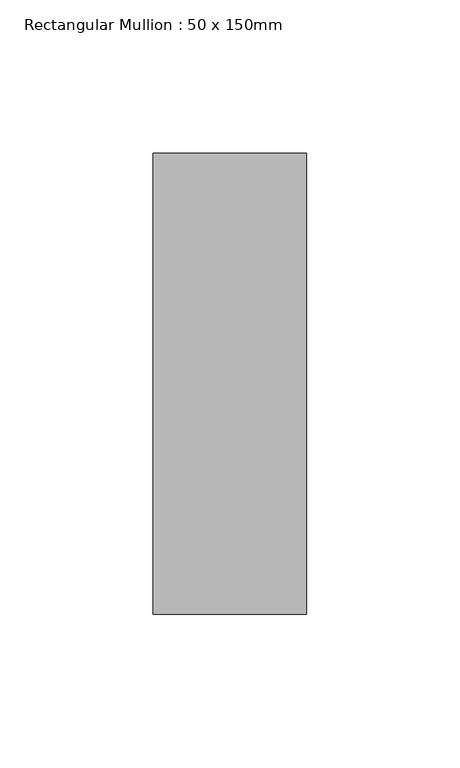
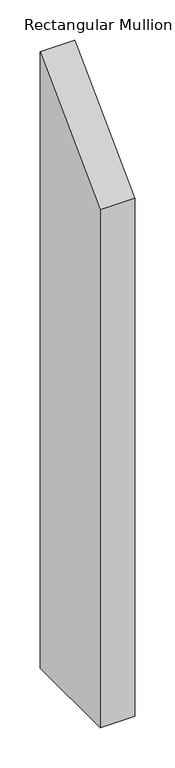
"""IFC4 building model written with IfcOpenShell, lengths in millimetres: member geometry, Rectangular Mullion : 50 x 150mm."""

from ifc_helpers import new_model, si_unit, frame, origin, place, context, project, spatial, polyline, outline, extrude, source, transform, mapped, element, save


def rectangular_mullion_50_x_150mm_c5e90e74(model_context):
    return source(origin(), model_context, "Body", "SweptSolid", [
        extrude(outline(polyline([(-75.0, -75.0), (75.0, 75.0), (75.0, -865.592625), (-75.0, -865.592625), (-75.0, -75.0)])), frame((-50.0, 0.0, 0.0), z_axis=(1.0, 0.0, 0.0), x_axis=(0.0, 1.0, 0.0)), (0.0, 0.0, 1.0), 50.0),
    ])


if __name__ == "__main__":
    model = new_model("IFC4")
    model_context = context("Model", 3, world=origin())
    ifc_project = project(units=[si_unit("LENGTHUNIT", "METRE", prefix="MILLI")], contexts=[model_context])
    site = spatial("IfcSite", under=ifc_project)
    building = spatial("IfcBuilding", under=site)
    placement = place(None, origin())
    rectangular_mullion_50_x_150mm_shape = rectangular_mullion_50_x_150mm_c5e90e74(model_context)
    element("IfcMember", 1, ObjectType="Rectangular Mullion : 50 x 150mm", at=placement, inside=building, context=model_context, shape_type="MappedRepresentation", body=[
        mapped(rectangular_mullion_50_x_150mm_shape, transform((0.0, 0.0, 0.0), x_axis=(1.0, 0.0, 0.0), y_axis=(0.0, 1.0, 0.0), z_axis=(0.0, 0.0, 1.0))),
    ])
    save(model, "model.ifc")
